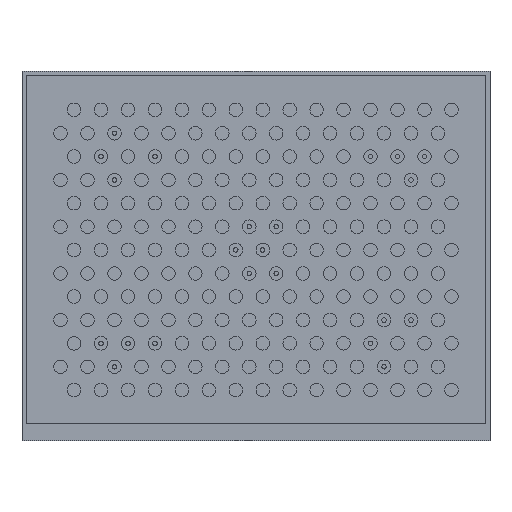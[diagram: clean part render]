
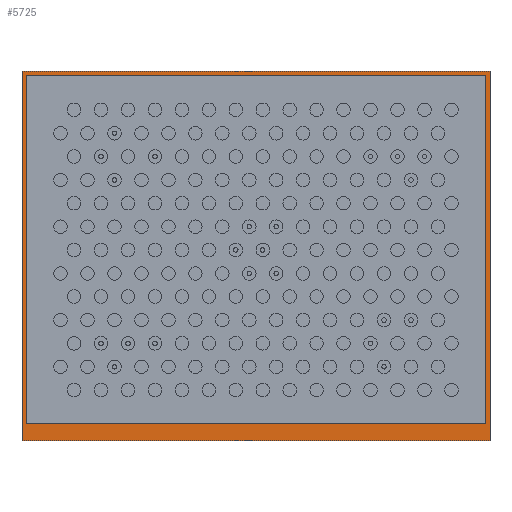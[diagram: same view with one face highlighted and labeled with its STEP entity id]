
A CAD part, top view. The second image highlights one B-rep face of the part: STEP entity #5725.
In plain terms, the highlighted planar face has unit normal (0, 0, 1).
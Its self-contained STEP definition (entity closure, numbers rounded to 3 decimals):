
#209=FACE_BOUND('',#1351,.T.);
#259=PLANE('',#6633);
#707=FACE_OUTER_BOUND('',#1350,.T.);
#1350=EDGE_LOOP('',(#4762,#4763,#4764,#4765));
#1351=EDGE_LOOP('',(#4766,#4767,#4768,#4769));
#1783=LINE('',#10125,#2027);
#1787=LINE('',#10133,#2031);
#1790=LINE('',#10139,#2034);
#1793=LINE('',#10144,#2037);
#1806=LINE('',#10227,#2050);
#1807=LINE('',#10229,#2051);
#1808=LINE('',#10231,#2052);
#1809=LINE('',#10232,#2053);
#2027=VECTOR('',#8323,10.);
#2031=VECTOR('',#8329,10.);
#2034=VECTOR('',#8334,10.);
#2037=VECTOR('',#8339,10.);
#2050=VECTOR('',#8444,10.);
#2051=VECTOR('',#8445,10.);
#2052=VECTOR('',#8446,10.);
#2053=VECTOR('',#8447,10.);
#2920=VERTEX_POINT('',#10123);
#2921=VERTEX_POINT('',#10124);
#2924=VERTEX_POINT('',#10132);
#2926=VERTEX_POINT('',#10138);
#2950=VERTEX_POINT('',#10225);
#2951=VERTEX_POINT('',#10226);
#2952=VERTEX_POINT('',#10228);
#2953=VERTEX_POINT('',#10230);
#3585=EDGE_CURVE('',#2920,#2921,#1783,.T.);
#3589=EDGE_CURVE('',#2921,#2924,#1787,.T.);
#3592=EDGE_CURVE('',#2924,#2926,#1790,.T.);
#3595=EDGE_CURVE('',#2926,#2920,#1793,.T.);
#3630=EDGE_CURVE('',#2950,#2951,#1806,.T.);
#3631=EDGE_CURVE('',#2951,#2952,#1807,.T.);
#3632=EDGE_CURVE('',#2952,#2953,#1808,.T.);
#3633=EDGE_CURVE('',#2953,#2950,#1809,.T.);
#4762=ORIENTED_EDGE('',*,*,#3630,.T.);
#4763=ORIENTED_EDGE('',*,*,#3631,.T.);
#4764=ORIENTED_EDGE('',*,*,#3632,.T.);
#4765=ORIENTED_EDGE('',*,*,#3633,.T.);
#4766=ORIENTED_EDGE('',*,*,#3585,.T.);
#4767=ORIENTED_EDGE('',*,*,#3589,.T.);
#4768=ORIENTED_EDGE('',*,*,#3592,.T.);
#4769=ORIENTED_EDGE('',*,*,#3595,.T.);
#5725=ADVANCED_FACE('',(#707,#209),#259,.T.);
#6633=AXIS2_PLACEMENT_3D('',#10224,#8442,#8443);
#8323=DIRECTION('',(1.,0.,0.));
#8329=DIRECTION('',(0.,-1.,0.));
#8334=DIRECTION('',(-1.,0.,0.));
#8339=DIRECTION('',(0.,1.,0.));
#8442=DIRECTION('center_axis',(0.,0.,1.));
#8443=DIRECTION('ref_axis',(1.,0.,0.));
#8444=DIRECTION('',(1.,0.,0.));
#8445=DIRECTION('',(0.,1.,0.));
#8446=DIRECTION('',(-1.,0.,0.));
#8447=DIRECTION('',(0.,-1.,0.));
#10123=CARTESIAN_POINT('',(-100.,78.5,4.));
#10124=CARTESIAN_POINT('',(100.,78.5,4.));
#10125=CARTESIAN_POINT('',(50.,78.5,4.));
#10132=CARTESIAN_POINT('',(100.,-73.2,4.));
#10133=CARTESIAN_POINT('',(100.,-36.6,4.));
#10138=CARTESIAN_POINT('',(-100.,-73.2,4.));
#10139=CARTESIAN_POINT('',(-50.,-73.2,4.));
#10144=CARTESIAN_POINT('',(-100.,39.25,4.));
#10224=CARTESIAN_POINT('Origin',(0.,0.,
4.));
#10225=CARTESIAN_POINT('',(-102.,-80.5,4.));
#10226=CARTESIAN_POINT('',(102.,-80.5,4.));
#10227=CARTESIAN_POINT('',(-102.,-80.5,4.));
#10228=CARTESIAN_POINT('',(102.,80.5,4.));
#10229=CARTESIAN_POINT('',(102.,-80.5,4.));
#10230=CARTESIAN_POINT('',(-102.,80.5,4.));
#10231=CARTESIAN_POINT('',(102.,80.5,4.));
#10232=CARTESIAN_POINT('',(-102.,80.5,4.));
